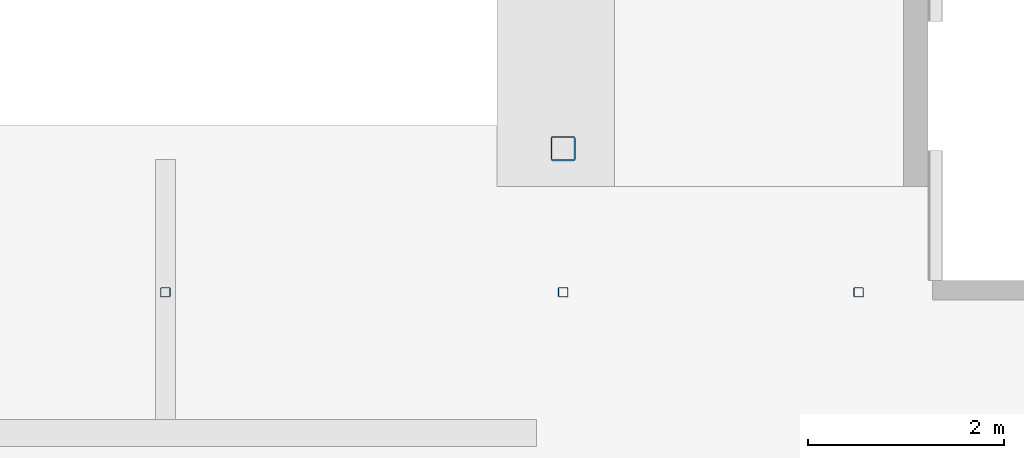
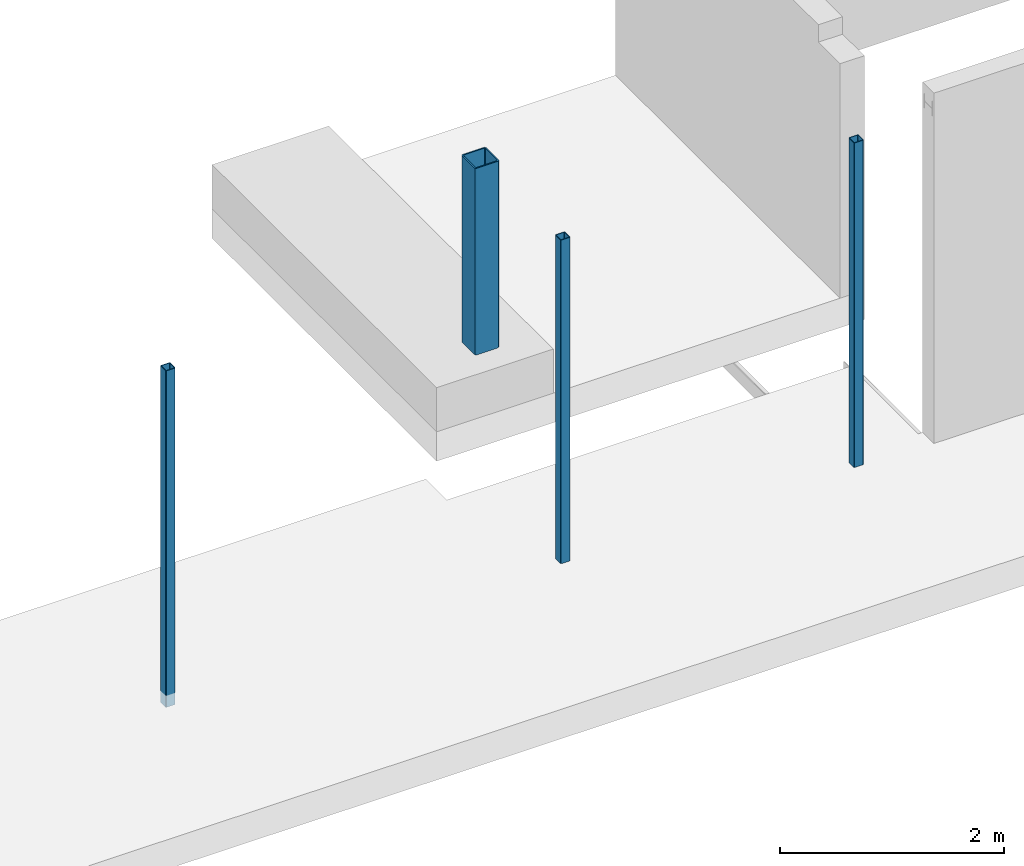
# One storey, part 10 of 37: 4 columns.
"""IFC2X3 building model written with IfcOpenShell, lengths in millimetres."""

from ifc_helpers import new_model, entity, si_unit, converted_unit, derived_unit, direction, frame, frame_2d, origin, place, context, subcontext, project, spatial, polyline, circle_curve, parameter, trimmed, segment, composite_curve, outline, extrude, source, transform, mapped, material, type_object, type_shapes, element, save


model = new_model("IFC2X3")

# Units and contexts
model_context = context("Model", 3, precision=0.01, world=origin(), true_north=direction((6.12303176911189e-17, 1.0)))
body_context = subcontext(model_context, "Body", "Model", "MODEL_VIEW")
ifc_project = project(units=[si_unit("LENGTHUNIT", "METRE", prefix="MILLI"), si_unit("AREAUNIT", "SQUARE_METRE", prefix="MILLI"), si_unit("VOLUMEUNIT", "CUBIC_METRE"), converted_unit("PLANEANGLEUNIT", "DEGREE", entity("IfcRatioMeasure", 0.0174532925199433), si_unit("PLANEANGLEUNIT", "RADIAN"), dimensions=[0, 0, 0, 0, 0, 0, 0]), si_unit("MASSUNIT", "GRAM", prefix="KILO"), derived_unit("MASSDENSITYUNIT", [(si_unit("MASSUNIT", "GRAM", prefix="KILO"), 1), (si_unit("LENGTHUNIT", "METRE"), -3)]), derived_unit("MOMENTOFINERTIAUNIT", [(si_unit("LENGTHUNIT", "METRE"), 4)]), si_unit("TIMEUNIT", "SECOND"), si_unit("FREQUENCYUNIT", "HERTZ"), si_unit("THERMODYNAMICTEMPERATUREUNIT", "DEGREE_CELSIUS"), derived_unit("THERMALTRANSMITTANCEUNIT", [(si_unit("MASSUNIT", "GRAM", prefix="KILO"), 1), (si_unit("THERMODYNAMICTEMPERATUREUNIT", "KELVIN"), -1), (si_unit("TIMEUNIT", "SECOND"), -3)]), derived_unit("VOLUMETRICFLOWRATEUNIT", [(si_unit("LENGTHUNIT", "METRE"), 3), (si_unit("TIMEUNIT", "SECOND"), -1)]), si_unit("ELECTRICCURRENTUNIT", "AMPERE"), si_unit("ELECTRICVOLTAGEUNIT", "VOLT"), si_unit("POWERUNIT", "WATT"), si_unit("FORCEUNIT", "NEWTON", prefix="KILO"), si_unit("ILLUMINANCEUNIT", "LUX"), si_unit("LUMINOUSFLUXUNIT", "LUMEN"), si_unit("LUMINOUSINTENSITYUNIT", "CANDELA"), derived_unit("USERDEFINED", [(si_unit("MASSUNIT", "GRAM", prefix="KILO"), -1), (si_unit("LENGTHUNIT", "METRE"), -2), (si_unit("TIMEUNIT", "SECOND"), 3), (si_unit("LUMINOUSFLUXUNIT", "LUMEN"), 1)]), derived_unit("LINEARVELOCITYUNIT", [(si_unit("LENGTHUNIT", "METRE"), 1), (si_unit("TIMEUNIT", "SECOND"), -1)]), si_unit("PRESSUREUNIT", "PASCAL"), derived_unit("USERDEFINED", [(si_unit("LENGTHUNIT", "METRE"), -2), (si_unit("MASSUNIT", "GRAM", prefix="KILO"), 1), (si_unit("TIMEUNIT", "SECOND"), -2)]), derived_unit("LINEARFORCEUNIT", [(si_unit("MASSUNIT", "GRAM", prefix="KILO"), 1), (si_unit("LENGTHUNIT", "METRE"), 1), (si_unit("TIMEUNIT", "SECOND"), -2), (si_unit("LENGTHUNIT", "METRE"), -1)]), derived_unit("PLANARFORCEUNIT", [(si_unit("MASSUNIT", "GRAM", prefix="KILO"), 1), (si_unit("LENGTHUNIT", "METRE"), 1), (si_unit("TIMEUNIT", "SECOND"), -2), (si_unit("LENGTHUNIT", "METRE"), -2)])], contexts=[model_context])

# Site, building, storey
site_placement = place(None, origin())
site = spatial("IfcSite", under=ifc_project, at=site_placement, Name="Theater aan de Parade", CompositionType="ELEMENT")
building_placement = place(site_placement, origin())
building = spatial("IfcBuilding", under=site, at=building_placement, Name="Theater aan de Parade", CompositionType="ELEMENT")
storey_placement = place(building_placement, frame((0.0, 0.0, 5020.0)))
storey = spatial("IfcBuildingStorey", under=building, at=storey_placement, Name="01 eerste verdieping", CompositionType="ELEMENT", Elevation=5020.0)

# Columns
ifc_material = material(Name="00_PBT_MAT_staal_S355")
column_type_1 = type_object("IfcColumnType", Name="28_PBT_SC_staal_koker:S355_K250x250x12.5", PredefinedType="COLUMN", material=ifc_material)
shared_shape_1 = source(origin(), body_context, "Body", "SweptSolid", [
    extrude(outline(composite_curve([segment(trimmed(circle_curve(frame_2d((-106.25, -106.25), x_axis=(1.0, 0.0)), 18.75), [parameter(180.0)], [parameter(270.0)], True, "PARAMETER"), True, "CONTINUOUS"), segment(polyline([(-106.25, -125.0), (106.25, -125.0)]), True, "CONTINUOUS"), segment(trimmed(circle_curve(frame_2d((106.25, -106.25), x_axis=(1.0, 0.0)), 18.75), [parameter(270.0)], [parameter(0.0)], True, "PARAMETER"), True, "CONTINUOUS"), segment(polyline([(125.0, -106.25), (125.0, 106.25)]), True, "CONTINUOUS"), segment(trimmed(circle_curve(frame_2d((106.25, 106.25), x_axis=(1.0, 0.0)), 18.75), [parameter(3.56222124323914e-13)], [parameter(90.0000000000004)], True, "PARAMETER"), True, "CONTINUOUS"), segment(polyline([(106.25, 125.0), (-106.25, 125.0)]), True, "CONTINUOUS"), segment(trimmed(circle_curve(frame_2d((-106.25, 106.25), x_axis=(1.0, 0.0)), 18.75), [parameter(90.0)], [parameter(180.0)], True, "PARAMETER"), True, "CONTINUOUS"), segment(polyline([(-125.0, 106.25), (-125.0, -106.25)]), True, "CONTINUOUS")], self_intersect=False), holes=[composite_curve([segment(trimmed(circle_curve(frame_2d((100.0, 100.0), x_axis=(1.0, 0.0)), 12.5), [parameter(0.0)], [parameter(90.0000000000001)], True, "PARAMETER"), False, "CONTINUOUS"), segment(polyline([(112.5, 100.0), (112.5, -100.0)]), True, "CONTINUOUS"), segment(trimmed(circle_curve(frame_2d((100.0, -100.0), x_axis=(1.0, 0.0)), 12.5), [parameter(269.999999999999)], [parameter(360.0)], True, "PARAMETER"), False, "CONTINUOUS"), segment(polyline([(100.0, -112.5), (-100.0, -112.5)]), True, "CONTINUOUS"), segment(trimmed(circle_curve(frame_2d((-100.0, -100.0), x_axis=(1.0, 0.0)), 12.5), [parameter(180.0)], [parameter(270.0)], True, "PARAMETER"), False, "CONTINUOUS"), segment(polyline([(-112.5, -100.0), (-112.5, 100.0)]), True, "CONTINUOUS"), segment(trimmed(circle_curve(frame_2d((-100.0, 100.0), x_axis=(1.0, 0.0)), 12.5), [parameter(90.0)], [parameter(180.0)], True, "PARAMETER"), False, "CONTINUOUS"), segment(polyline([(-100.0, 112.5), (100.0, 112.5)]), True, "CONTINUOUS")], self_intersect=False)]), frame((0.0, 0.0, 6400.0), z_axis=(0.0, 0.0, 1.0), x_axis=(-1.0, 0.0, 0.0)), (0.0, 0.0, 1.0), 2030.0),
])
type_shapes(column_type_1, [shared_shape_1])
column_1_placement = place(storey_placement, frame((78773.8589693, 16197.0, -5020.0), z_axis=(0.0, 0.0, 1.0), x_axis=(0.0, 1.0, 0.0)))
element("IfcColumn", 1, at=column_1_placement, inside=storey, type_object=column_type_1, material=ifc_material, Name="28_PBT_SC_staal_koker:S355_K250x250x12.5", ObjectType="28_PBT_SC_staal_koker:S355_K250x250x12.5", context=body_context, shape_type="MappedRepresentation", body=[
    mapped(shared_shape_1, transform((0.0, 0.0, 0.0), scale=1.0)),
])
column_type_2 = type_object("IfcColumnType", Name="28_PBT_SC_staal_koker:S355_K100x100x6.3", PredefinedType="COLUMN", material=ifc_material)
shared_shape_2 = source(origin(), body_context, "Body", "SweptSolid", [
    extrude(outline(composite_curve([segment(trimmed(circle_curve(frame_2d((-40.55, -40.55), x_axis=(1.0, 0.0)), 9.45), [parameter(180.0)], [parameter(270.0)], True, "PARAMETER"), True, "CONTINUOUS"), segment(polyline([(-40.55, -50.0), (40.55, -50.0)]), True, "CONTINUOUS"), segment(trimmed(circle_curve(frame_2d((40.55, -40.55), x_axis=(1.0, 0.0)), 9.45), [parameter(270.0)], [parameter(0.0)], True, "PARAMETER"), True, "CONTINUOUS"), segment(polyline([(50.0, -40.55), (50.0, 40.55)]), True, "CONTINUOUS"), segment(trimmed(circle_curve(frame_2d((40.55, 40.55), x_axis=(1.0, 0.0)), 9.45), [parameter(3.56222124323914e-13)], [parameter(90.0000000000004)], True, "PARAMETER"), True, "CONTINUOUS"), segment(polyline([(40.55, 50.0), (-40.55, 50.0)]), True, "CONTINUOUS"), segment(trimmed(circle_curve(frame_2d((-40.55, 40.55), x_axis=(1.0, 0.0)), 9.45), [parameter(90.0)], [parameter(180.0)], True, "PARAMETER"), True, "CONTINUOUS"), segment(polyline([(-50.0, 40.55), (-50.0, -40.55)]), True, "CONTINUOUS")], self_intersect=False), holes=[composite_curve([segment(trimmed(circle_curve(frame_2d((37.4, 37.4), x_axis=(1.0, 0.0)), 6.3), [parameter(0.0)], [parameter(90.0000000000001)], True, "PARAMETER"), False, "CONTINUOUS"), segment(polyline([(43.7, 37.4), (43.7, -37.4)]), True, "CONTINUOUS"), segment(trimmed(circle_curve(frame_2d((37.4, -37.4), x_axis=(1.0, 0.0)), 6.3), [parameter(270.0)], [parameter(360.0)], True, "PARAMETER"), False, "CONTINUOUS"), segment(polyline([(37.4, -43.7), (-37.4, -43.7)]), True, "CONTINUOUS"), segment(trimmed(circle_curve(frame_2d((-37.4, -37.4), x_axis=(1.0, 0.0)), 6.3), [parameter(180.0)], [parameter(270.0)], True, "PARAMETER"), False, "CONTINUOUS"), segment(polyline([(-43.7, -37.4), (-43.7, 37.4)]), True, "CONTINUOUS"), segment(trimmed(circle_curve(frame_2d((-37.4, 37.4), x_axis=(1.0, 0.0)), 6.3), [parameter(89.9999999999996)], [parameter(180.0)], True, "PARAMETER"), False, "CONTINUOUS"), segment(polyline([(-37.4, 43.7), (37.4, 43.7)]), True, "CONTINUOUS")], self_intersect=False)]), frame((0.0, 0.0, 4950.0), z_axis=(0.0, 0.0, 1.0), x_axis=(-1.0, 0.0, 0.0)), (0.0, 0.0, 1.0), 3520.0),
])
type_shapes(column_type_2, [shared_shape_2])
column_2_placement = place(storey_placement, frame((78773.8589693, 14730.0, -5020.0), z_axis=(0.0, 0.0, 1.0), x_axis=(0.0, 1.0, 0.0)))
element("IfcColumn", 2, at=column_2_placement, inside=storey, type_object=column_type_2, material=ifc_material, Name="28_PBT_SC_staal_koker:S355_K100x100x6.3", ObjectType="28_PBT_SC_staal_koker:S355_K100x100x6.3", context=body_context, shape_type="MappedRepresentation", body=[
    mapped(shared_shape_2, transform((0.0, 0.0, 0.0), scale=1.0)),
])
column_type_3 = type_object("IfcColumnType", Name="28_PBT_SC_staal_koker:S355_K100x100x6.3", PredefinedType="COLUMN", material=ifc_material)
shared_shape_3 = source(origin(), body_context, "Body", "SweptSolid", [
    extrude(outline(composite_curve([segment(trimmed(circle_curve(frame_2d((-40.55, -40.55), x_axis=(1.0, 0.0)), 9.45), [parameter(180.0)], [parameter(270.0)], True, "PARAMETER"), True, "CONTINUOUS"), segment(polyline([(-40.55, -50.0), (40.55, -50.0)]), True, "CONTINUOUS"), segment(trimmed(circle_curve(frame_2d((40.55, -40.55), x_axis=(1.0, 0.0)), 9.45), [parameter(270.0)], [parameter(0.0)], True, "PARAMETER"), True, "CONTINUOUS"), segment(polyline([(50.0, -40.55), (50.0, 40.55)]), True, "CONTINUOUS"), segment(trimmed(circle_curve(frame_2d((40.55, 40.55), x_axis=(1.0, 0.0)), 9.45), [parameter(3.56222124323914e-13)], [parameter(90.0000000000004)], True, "PARAMETER"), True, "CONTINUOUS"), segment(polyline([(40.55, 50.0), (-40.55, 50.0)]), True, "CONTINUOUS"), segment(trimmed(circle_curve(frame_2d((-40.55, 40.55), x_axis=(1.0, 0.0)), 9.45), [parameter(90.0)], [parameter(180.0)], True, "PARAMETER"), True, "CONTINUOUS"), segment(polyline([(-50.0, 40.55), (-50.0, -40.55)]), True, "CONTINUOUS")], self_intersect=False), holes=[composite_curve([segment(trimmed(circle_curve(frame_2d((37.4, 37.4), x_axis=(1.0, 0.0)), 6.3), [parameter(0.0)], [parameter(90.0000000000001)], True, "PARAMETER"), False, "CONTINUOUS"), segment(polyline([(43.7, 37.4), (43.7, -37.4)]), True, "CONTINUOUS"), segment(trimmed(circle_curve(frame_2d((37.4, -37.4), x_axis=(1.0, 0.0)), 6.3), [parameter(270.0)], [parameter(360.0)], True, "PARAMETER"), False, "CONTINUOUS"), segment(polyline([(37.4, -43.7), (-37.4, -43.7)]), True, "CONTINUOUS"), segment(trimmed(circle_curve(frame_2d((-37.4, -37.4), x_axis=(1.0, 0.0)), 6.3), [parameter(180.0)], [parameter(270.0)], True, "PARAMETER"), False, "CONTINUOUS"), segment(polyline([(-43.7, -37.4), (-43.7, 37.4)]), True, "CONTINUOUS"), segment(trimmed(circle_curve(frame_2d((-37.4, 37.4), x_axis=(1.0, 0.0)), 6.3), [parameter(89.9999999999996)], [parameter(180.0)], True, "PARAMETER"), False, "CONTINUOUS"), segment(polyline([(-37.4, 43.7), (37.4, 43.7)]), True, "CONTINUOUS")], self_intersect=False)]), frame((0.0, 0.0, 4810.0), z_axis=(0.0, 0.0, 1.0), x_axis=(-1.0, 0.0, 0.0)), (0.0, 0.0, 1.0), 3660.0),
])
type_shapes(column_type_3, [shared_shape_3])
column_3_placement = place(storey_placement, frame((74711.8589693, 14730.0, -5020.0), z_axis=(0.0, 0.0, 1.0), x_axis=(0.0, 1.0, 0.0)))
element("IfcColumn", 3, at=column_3_placement, inside=storey, type_object=column_type_3, material=ifc_material, Name="28_PBT_SC_staal_koker:S355_K100x100x6.3", ObjectType="28_PBT_SC_staal_koker:S355_K100x100x6.3", context=body_context, shape_type="MappedRepresentation", body=[
    mapped(shared_shape_3, transform((0.0, 0.0, 0.0), scale=1.0)),
])
column_type_4 = type_object("IfcColumnType", Name="28_PBT_SC_staal_koker:S355_K100x100x6.3", PredefinedType="COLUMN", material=ifc_material)
shared_shape_4 = source(origin(), body_context, "Body", "SweptSolid", [
    extrude(outline(composite_curve([segment(trimmed(circle_curve(frame_2d((-40.55, -40.55), x_axis=(1.0, 0.0)), 9.45), [parameter(180.0)], [parameter(270.0)], True, "PARAMETER"), True, "CONTINUOUS"), segment(polyline([(-40.55, -50.0), (40.55, -50.0)]), True, "CONTINUOUS"), segment(trimmed(circle_curve(frame_2d((40.55, -40.55), x_axis=(1.0, 0.0)), 9.45), [parameter(270.0)], [parameter(0.0)], True, "PARAMETER"), True, "CONTINUOUS"), segment(polyline([(50.0, -40.55), (50.0, 40.55)]), True, "CONTINUOUS"), segment(trimmed(circle_curve(frame_2d((40.55, 40.55), x_axis=(1.0, 0.0)), 9.45), [parameter(3.56222124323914e-13)], [parameter(90.0000000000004)], True, "PARAMETER"), True, "CONTINUOUS"), segment(polyline([(40.55, 50.0), (-40.55, 50.0)]), True, "CONTINUOUS"), segment(trimmed(circle_curve(frame_2d((-40.55, 40.55), x_axis=(1.0, 0.0)), 9.45), [parameter(90.0)], [parameter(180.0)], True, "PARAMETER"), True, "CONTINUOUS"), segment(polyline([(-50.0, 40.55), (-50.0, -40.55)]), True, "CONTINUOUS")], self_intersect=False), holes=[composite_curve([segment(trimmed(circle_curve(frame_2d((37.4, 37.4), x_axis=(1.0, 0.0)), 6.3), [parameter(0.0)], [parameter(90.0000000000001)], True, "PARAMETER"), False, "CONTINUOUS"), segment(polyline([(43.7, 37.4), (43.7, -37.4)]), True, "CONTINUOUS"), segment(trimmed(circle_curve(frame_2d((37.4, -37.4), x_axis=(1.0, 0.0)), 6.3), [parameter(270.0)], [parameter(360.0)], True, "PARAMETER"), False, "CONTINUOUS"), segment(polyline([(37.4, -43.7), (-37.4, -43.7)]), True, "CONTINUOUS"), segment(trimmed(circle_curve(frame_2d((-37.4, -37.4), x_axis=(1.0, 0.0)), 6.3), [parameter(180.0)], [parameter(270.0)], True, "PARAMETER"), False, "CONTINUOUS"), segment(polyline([(-43.7, -37.4), (-43.7, 37.4)]), True, "CONTINUOUS"), segment(trimmed(circle_curve(frame_2d((-37.4, 37.4), x_axis=(1.0, 0.0)), 6.3), [parameter(89.9999999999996)], [parameter(180.0)], True, "PARAMETER"), False, "CONTINUOUS"), segment(polyline([(-37.4, 43.7), (37.4, 43.7)]), True, "CONTINUOUS")], self_intersect=False)]), frame((0.0, 0.0, 4940.0), z_axis=(0.0, 0.0, 1.0), x_axis=(-1.0, 0.0, 0.0)), (0.0, 0.0, 1.0), 3530.0),
])
type_shapes(column_type_4, [shared_shape_4])
column_4_placement = place(storey_placement, frame((81792.4181868, 14730.0, -5020.0), z_axis=(0.0, 0.0, 1.0), x_axis=(0.0, 1.0, 0.0)))
element("IfcColumn", 4, at=column_4_placement, inside=storey, type_object=column_type_4, material=ifc_material, Name="28_PBT_SC_staal_koker:S355_K100x100x6.3", ObjectType="28_PBT_SC_staal_koker:S355_K100x100x6.3", context=body_context, shape_type="MappedRepresentation", body=[
    mapped(shared_shape_4, transform((0.0, 0.0, 0.0), scale=1.0)),
])

save(model, "model.ifc")
